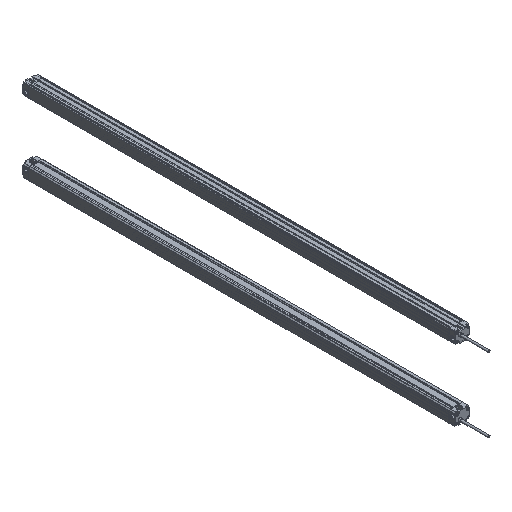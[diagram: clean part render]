
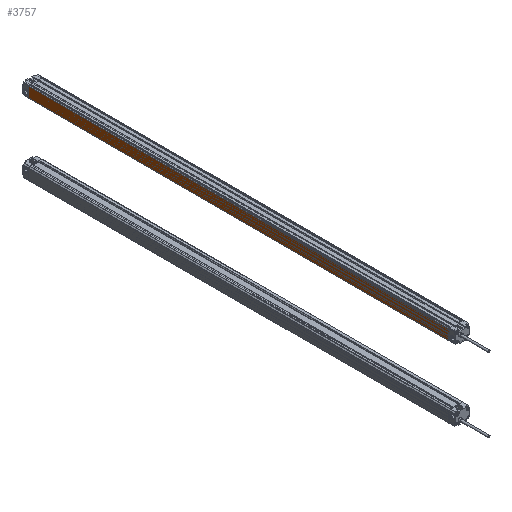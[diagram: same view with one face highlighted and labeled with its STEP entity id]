
A CAD part, isometric view. The second image highlights one B-rep face of the part: STEP entity #3757.
In plain terms, the highlighted planar face has unit normal (-1, 0, 0) as drawn and (1, 0, 0) by its records, which use the part's own axes.
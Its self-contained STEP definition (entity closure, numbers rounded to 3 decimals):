
#124 = VERTEX_POINT ( 'NONE', #8883 ) ;
#151 = CARTESIAN_POINT ( 'NONE',  ( 12.5, -720., 8.293 ) ) ;
#165 = ORIENTED_EDGE ( 'NONE', *, *, #6011, .T. ) ;
#187 = DIRECTION ( 'NONE',  ( 0., 0., -1. ) ) ;
#476 = DIRECTION ( 'NONE',  ( 0., 0., -1. ) ) ;
#1112 = VERTEX_POINT ( 'NONE', #10690 ) ;
#1189 = PLANE ( 'NONE',  #5329 ) ;
#1287 = EDGE_LOOP ( 'NONE', ( #8570, #2181, #165, #10805 ) ) ;
#1914 = CARTESIAN_POINT ( 'NONE',  ( 12.5, -720., 8.293 ) ) ;
#2123 = CARTESIAN_POINT ( 'NONE',  ( 12.5, 0., -9.2 ) ) ;
#2181 = ORIENTED_EDGE ( 'NONE', *, *, #10882, .F. ) ;
#3235 = VECTOR ( 'NONE', #187, 1000. ) ;
#3688 = VERTEX_POINT ( 'NONE', #2123 ) ;
#3738 = VECTOR ( 'NONE', #6613, 1000. ) ;
#3757 = ADVANCED_FACE ( 'NONE', ( #6690 ), #1189, .T. ) ;
#4384 = LINE ( 'NONE', #9085, #3738 ) ;
#4396 = VECTOR ( 'NONE', #8403, 1000. ) ;
#4463 = VERTEX_POINT ( 'NONE', #1914 ) ;
#4552 = VECTOR ( 'NONE', #476, 1000. ) ;
#4602 = CARTESIAN_POINT ( 'NONE',  ( 12.5, -720., 8.293 ) ) ;
#4842 = LINE ( 'NONE', #151, #3235 ) ;
#5329 = AXIS2_PLACEMENT_3D ( 'NONE', #4602, #6219, #10523 ) ;
#6011 = EDGE_CURVE ( 'NONE', #4463, #1112, #4842, .T. ) ;
#6219 = DIRECTION ( 'NONE',  ( 1., 0., 0. ) ) ;
#6523 = LINE ( 'NONE', #8749, #4396 ) ;
#6613 = DIRECTION ( 'NONE',  ( 0., 1., 0. ) ) ;
#6690 = FACE_OUTER_BOUND ( 'NONE', #1287, .T. ) ;
#8403 = DIRECTION ( 'NONE',  ( 0., 1., 0. ) ) ;
#8570 = ORIENTED_EDGE ( 'NONE', *, *, #9431, .F. ) ;
#8749 = CARTESIAN_POINT ( 'NONE',  ( 12.5, -720., -9.2 ) ) ;
#8760 = LINE ( 'NONE', #10531, #4552 ) ;
#8883 = CARTESIAN_POINT ( 'NONE',  ( 12.5, 0., 8.293 ) ) ;
#9085 = CARTESIAN_POINT ( 'NONE',  ( 12.5, -720., 8.293 ) ) ;
#9431 = EDGE_CURVE ( 'NONE', #124, #3688, #8760, .T. ) ;
#10430 = EDGE_CURVE ( 'NONE', #1112, #3688, #6523, .T. ) ;
#10523 = DIRECTION ( 'NONE',  ( 0., 0., -1. ) ) ;
#10531 = CARTESIAN_POINT ( 'NONE',  ( 12.5, 0., 8.293 ) ) ;
#10690 = CARTESIAN_POINT ( 'NONE',  ( 12.5, -720., -9.2 ) ) ;
#10805 = ORIENTED_EDGE ( 'NONE', *, *, #10430, .T. ) ;
#10882 = EDGE_CURVE ( 'NONE', #4463, #124, #4384, .T. ) ;
